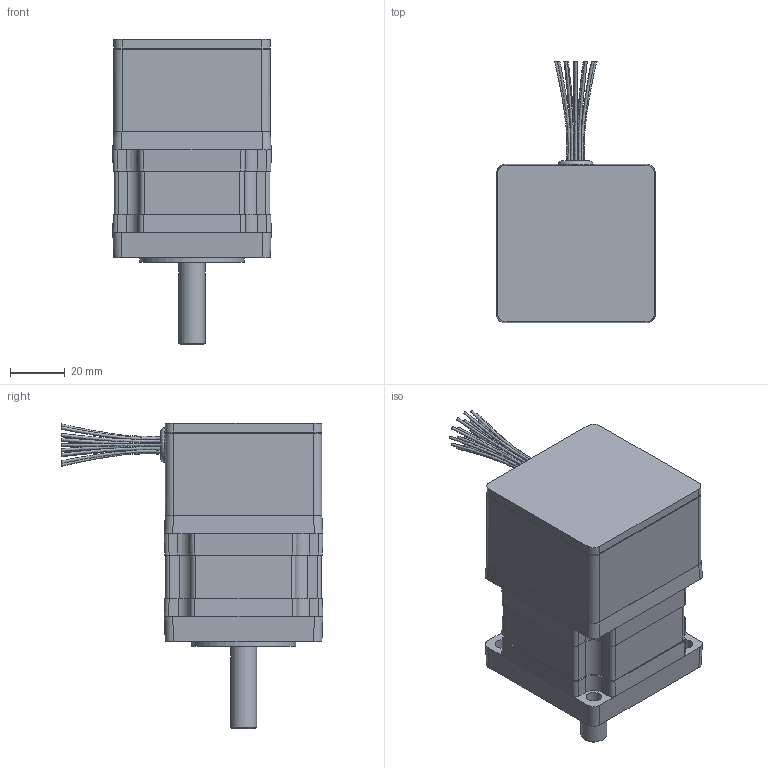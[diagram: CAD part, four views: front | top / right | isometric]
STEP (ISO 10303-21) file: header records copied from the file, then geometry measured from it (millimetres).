
FILE_DESCRIPTION((''),'2;1');
FILE_NAME('C:\CAD_work\Dummy_Modeling_Project_02-12-05\3D MODELS\BE230_FL.stp','2005-12-20T15:24:10',('jevans'),(''),'Autodesk Inventor 10','Autodesk Inventor 10','');
FILE_SCHEMA(('AUTOMOTIVE_DESIGN { 1 0 10303 214 1 1 1 1 }'));
Length unit declared in the file: inch
Products named in the file (1): BE23_FL
Bounding box: 57.95 x 95.65 x 111.66 mm (x, y, z)
Volume: 249218 mm3; surface area: 33973.3 mm2
Topology: 3 solids, 3 shells, 255 faces, 601 edges, 384 vertices
Faces by surface type: plane 139, cylinder 80, bspline 24, cone 8, torus 4
Full cylindrical faces by diameter (mm): 1.27 x2, 6.985 x1, 9.52 x1, 9.525 x1, 12.7 x1, 21.59 x1, 24.13 x1, 25.403 x1, 26 x1, 27.076 x1, 31.75 x3, 38.1 x1, 41.732 x1, 47.015 x1
Entity records: 9299 total; most frequent: CARTESIAN_POINT 3510, DIRECTION 1222, ORIENTED_EDGE 1118, EDGE_CURVE 559, AXIS2_PLACEMENT_3D 467, VERTEX_POINT 373, EDGE_LOOP 332, VECTOR 288
